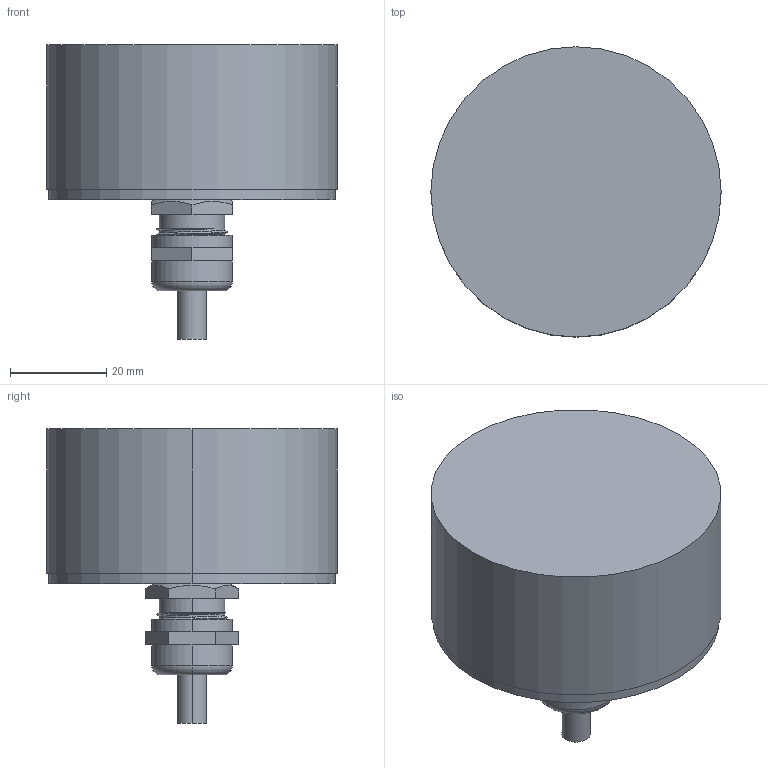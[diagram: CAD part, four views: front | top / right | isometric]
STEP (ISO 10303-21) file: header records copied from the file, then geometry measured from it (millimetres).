
FILE_DESCRIPTION (( 'STEP AP203' ), '1' );
FILE_NAME ('Drawing-OC-6-TC-322-2NM-12TNNN-Y-CAW-N.STEP', '2013-04-24T12:55:56', ( '' ), ( '' ), 'SwSTEP 2.0', 'SolidWorks 2006104', '' );
FILE_SCHEMA (( 'CONFIG_CONTROL_DESIGN' ));
Length unit declared in the file: millimetre
Products named in the file (1): Drawing-OC-6-TC-322-2NM-12TNNN-Y-CAW-N
Bounding box: 60.3 x 60.3 x 61.13 mm (x, y, z)
Volume: 27342.6 mm3; surface area: 27121.2 mm2
Topology: 10 solids, 10 shells, 327 faces, 779 edges, 478 vertices
Faces by surface type: cone 108, cylinder 94, plane 72, torus 49, bspline 4
Entity records: 11275 total; most frequent: CARTESIAN_POINT 3535, DIRECTION 1747, ORIENTED_EDGE 1546, EDGE_CURVE 773, AXIS2_PLACEMENT_3D 761, VERTEX_POINT 478, CIRCLE 437, EDGE_LOOP 355
